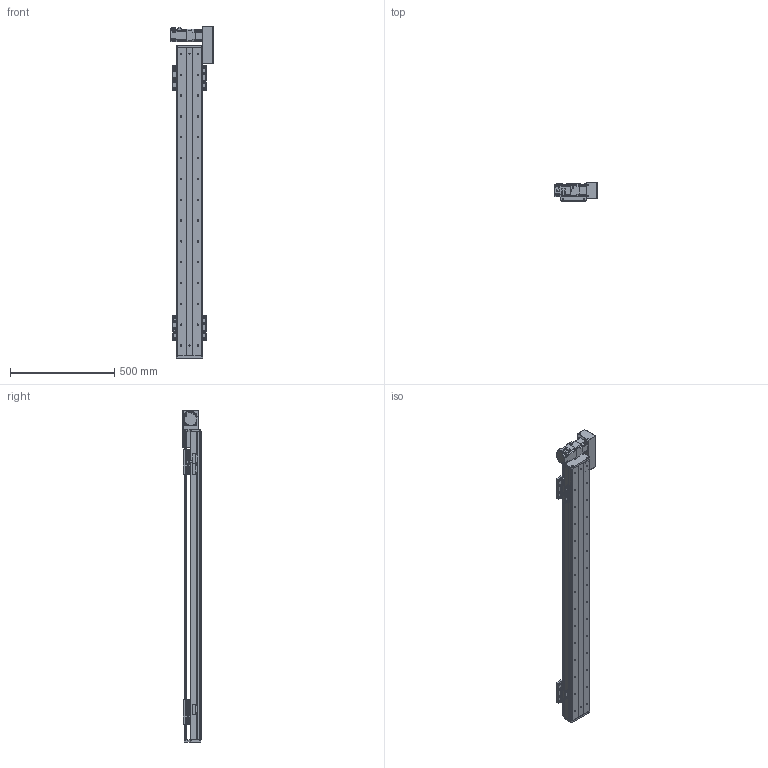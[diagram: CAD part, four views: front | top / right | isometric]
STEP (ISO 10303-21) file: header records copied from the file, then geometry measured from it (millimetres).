
FILE_DESCRIPTION(/* description */ (''),/* implementation_level */ '2;1');
FILE_NAME(/* name */ 'C:\Users\PC\Desktop\3D도면\STEP\STEP\DSB125-R2G-W1200-L.stp',/* time_stamp */ '2018-06-13T15:59:06+09:00',/* author */ ('PC'),/* organization */ (''),/* preprocessor_version */ 'ST-DEVELOPER v16.5',/* originating_system */ 'Autodesk Inventor 2017',/* authorisation */ '');
FILE_SCHEMA (('AUTOMOTIVE_DESIGN { 1 0 10303 214 3 1 1 }'));
Length unit declared in the file: millimetre
Products named in the file (12): DSB125-L2G-W1200-R_MIR; DSB125-BASE_MIR; DSB125-FRONT COVER_MIR; DSB125-REAR COVER_MIR; DSB125-UP COVER_MIR; DSB125-TABLE(MSB15S)_MIR; hg-kr23__MIR; ab0601-p0401200402_MIR; 13-BELT COVER_MIR; DSR125-SENSOR DOG_MIR; pm-y65_step_MIR; SENSOR BRACKET(EE-SX674A)_MIR
Assembly tree (16 placements, depth 2):
  DSB125-L2G-W1200-R_MIR
    DSB125-BASE_MIR
    DSB125-FRONT COVER_MIR
    DSB125-REAR COVER_MIR
    DSB125-UP COVER_MIR
    DSB125-TABLE(MSB15S)_MIR  x2
    hg-kr23__MIR
    ab0601-p0401200402_MIR
    13-BELT COVER_MIR
    DSR125-SENSOR DOG_MIR
    pm-y65_step_MIR  x3
    SENSOR BRACKET(EE-SX674A)_MIR  x3
Bounding box: 202.1 x 88 x 1594 mm (x, y, z)
Volume: 5380499 mm3; surface area: 1548750.3 mm2
Topology: 17 solids, 17 shells, 1671 faces, 4530 edges, 2984 vertices
Faces by surface type: plane 903, cylinder 636, cone 120, sphere 8, torus 4
Full cylindrical faces by diameter (mm): 2.459 x20, 3.242 x16, 3.5 x6, 4 x1, 4.134 x16, 4.2 x4, 4.3 x1, 4.5 x50, 4.917 x20, 5 x22, 5.3 x1, 5.5 x4, 5.6 x8, 5.8 x4, 5.9 x8, 6 x4, 6.6 x22, 6.647 x30, 7.5 x32, 8.5 x8, 8.7 x1, 11 x22, 14 x1, 16 x2, 17 x1, 20 x1, 47 x1, 50 x3
Entity records: 36221 total; most frequent: CARTESIAN_POINT 6519, DIRECTION 6154, ORIENTED_EDGE 5498, EDGE_CURVE 2749, AXIS2_PLACEMENT_3D 2265, VERTEX_POINT 1958, EDGE_LOOP 1693, LINE 1624
